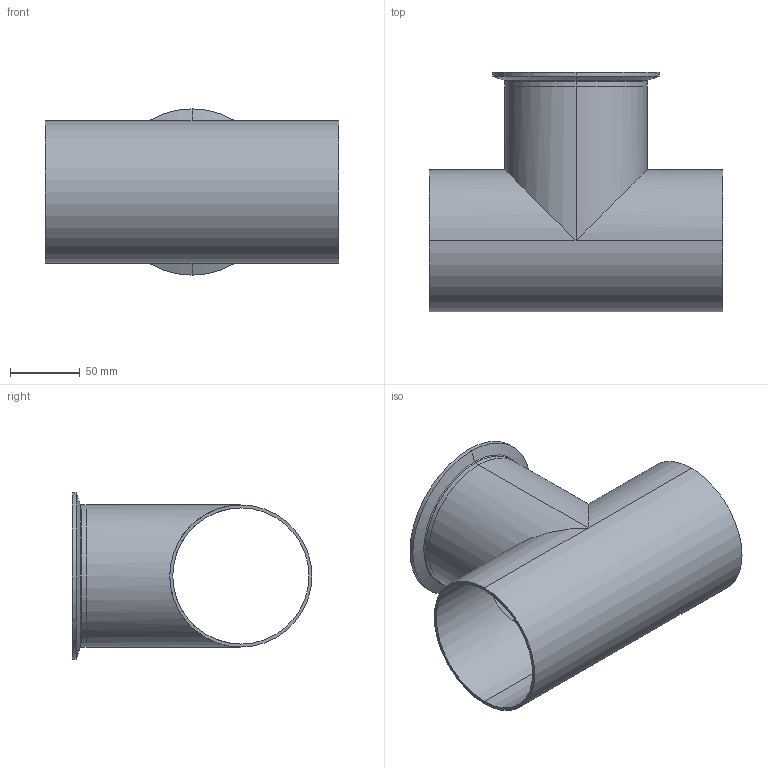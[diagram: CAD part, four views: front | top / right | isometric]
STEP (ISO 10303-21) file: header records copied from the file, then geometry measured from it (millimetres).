
FILE_DESCRIPTION (( 'STEP AP214' ), '1' );
FILE_NAME ('TE7WWC6L4.0-...STEP', '2016-05-23T05:54:40', ( 'eran' ), ( '' ), 'SwSTEP 2.0', 'SolidWorks 2016', '' );
FILE_SCHEMA (( 'AUTOMOTIVE_DESIGN' ));
Length unit declared in the file: millimetre
Products named in the file (1): TE7WWC6L4.0-..
Bounding box: 209.6 x 171.47 x 118.92 mm (x, y, z)
Volume: 188732.3 mm3; surface area: 175572.9 mm2
Topology: 2 solids, 2 shells, 38 faces, 92 edges, 58 vertices
Faces by surface type: cylinder 16, bspline 10, plane 6, cone 6
Entity records: 1827 total; most frequent: CARTESIAN_POINT 893, DIRECTION 198, ORIENTED_EDGE 184, EDGE_CURVE 92, AXIS2_PLACEMENT_3D 87, CIRCLE 58, VERTEX_POINT 58, EDGE_LOOP 44
